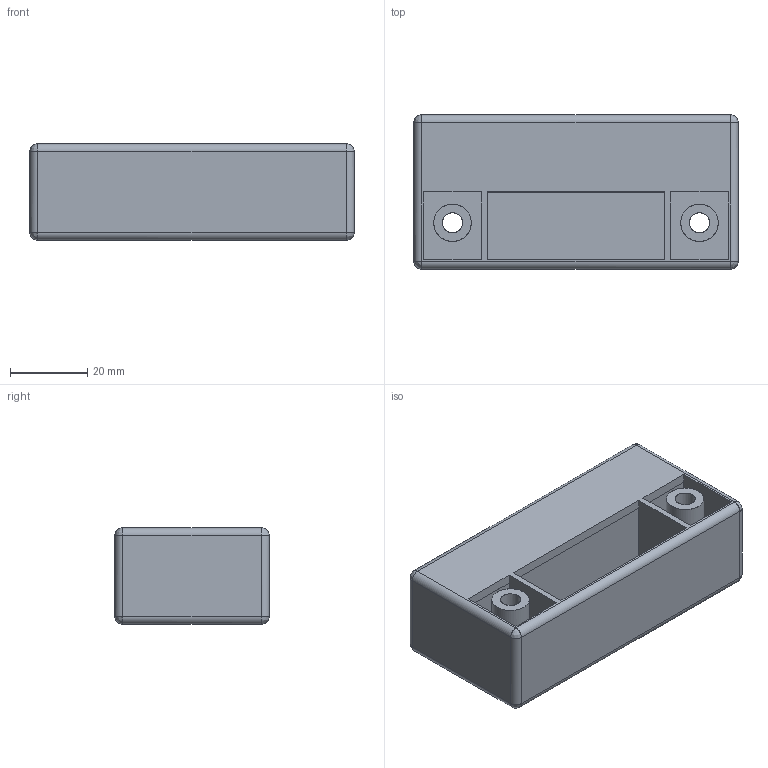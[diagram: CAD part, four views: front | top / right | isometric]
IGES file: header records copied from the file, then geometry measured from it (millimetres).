
Start section: C
Global section: file name: 8072-25.igs; native system: By Siemens PLM Incorporated; preprocessor: XPlus GENERIC/IGES 16.0.42; author: Author; organization: Title; date: 20231128.130150; units: millimetre
Bounding box: 84 x 40 x 25 mm (x, y, z)
Surface area: 23744.5 mm2 (no closed solid volume)
Topology: 0 solids, 0 shells, 70 faces, 336 edges, 328 vertices
Faces by surface type: bspline 70
